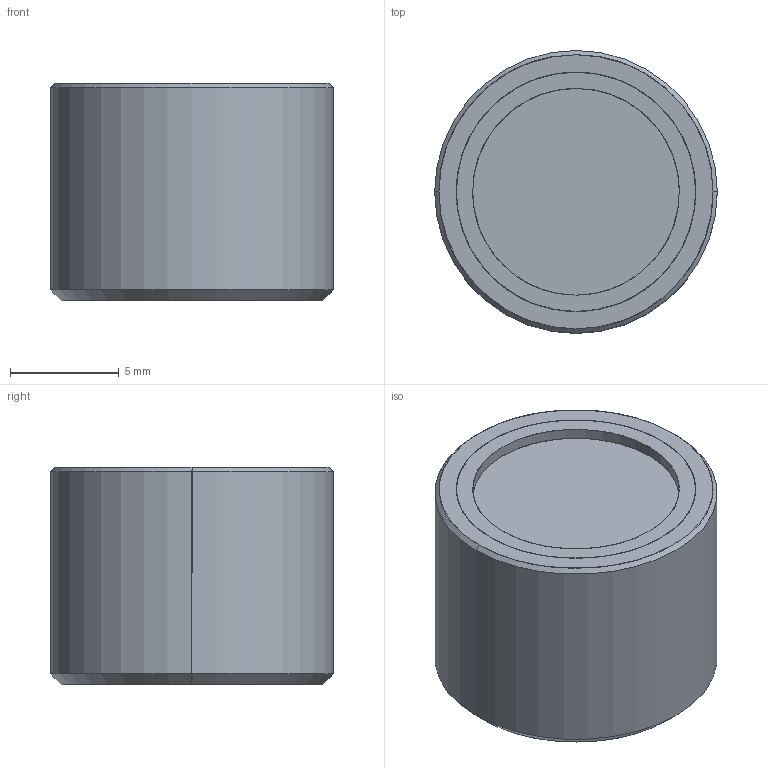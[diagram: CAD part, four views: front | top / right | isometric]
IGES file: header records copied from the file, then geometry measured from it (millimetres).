
Global section: file name: E:\UnigraphicsGraphicData\MISUMI_PRESS-PARTS\IGES\3d_hxu13_00548_r00.igs; native system: NX V5.0; preprocessor: UGS NX IGES V5.0; author: MISUMI; date: 20110105.161100; units: millimetre
Bounding box: 13 x 13 x 10 mm (x, y, z)
Surface area: 1336.5 mm2 (no closed solid volume)
Topology: 0 solids, 0 shells, 26 faces, 184 edges, 184 vertices
Faces by surface type: bspline 26
